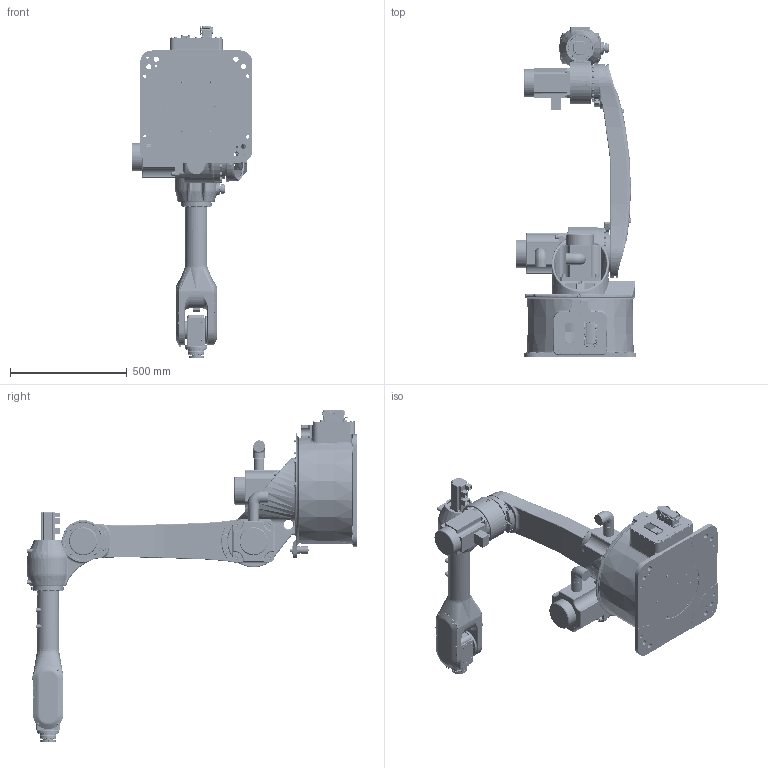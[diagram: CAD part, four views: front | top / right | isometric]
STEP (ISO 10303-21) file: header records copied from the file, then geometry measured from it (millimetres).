
FILE_DESCRIPTION(('STEP AP214'),'1');
FILE_NAME('TSR171-20.stp','2020-05-11T05:52:26',(' '),(' '),'Spatial InterOp 3D',' ',' ');
FILE_SCHEMA(('AUTOMOTIVE_DESIGN { 1 0 10303 214 1 1 1 1 }'));
Length unit declared in the file: millimetre
Products named in the file (8): TSR171-20; 4______; ____; 3______; 5______; 1______; 6______; ________
Assembly tree (7 placements, depth 2):
  TSR171-20
    4______
    ____
    3______
    5______
    1______
    6______
    ________
Bounding box: 516 x 1417 x 1421.86 mm (x, y, z)
Volume: 56380276.2 mm3; surface area: 5905740 mm2
Topology: 160 solids, 5026 shells, 13354 faces, 44369 edges, 36285 vertices
Faces by surface type: plane 6008, cylinder 4111, bspline 1281, cone 1105, torus 724, sphere 125
Entity records: 872222 total; most frequent: CARTESIAN_POINT 350130, DIRECTION 74015, ORIENTED_EDGE 63405, EDGE_CURVE 43747, VERTEX_POINT 36286, AXIS2_PLACEMENT_3D 25323, LINE 23369, VECTOR 23369
